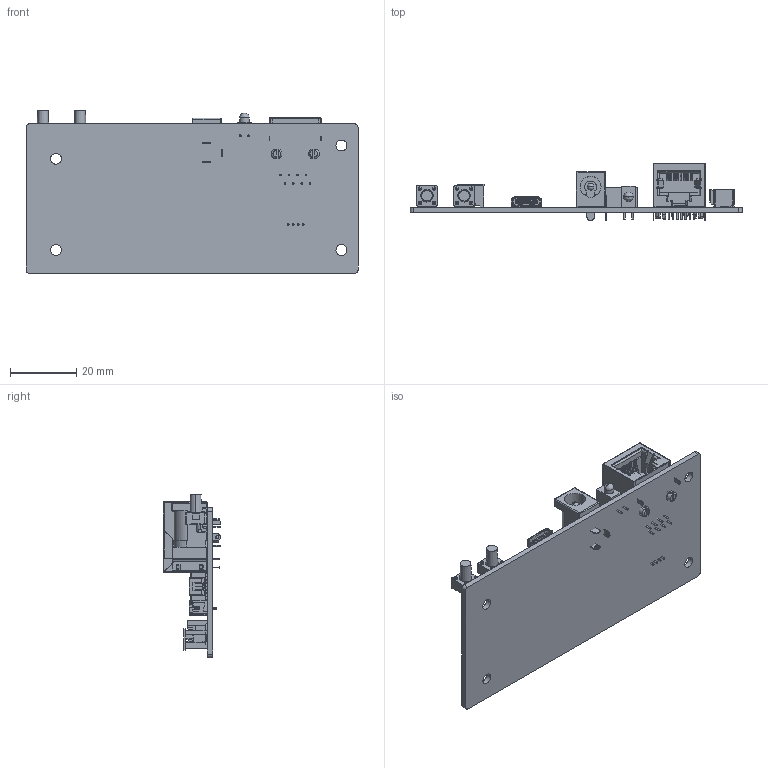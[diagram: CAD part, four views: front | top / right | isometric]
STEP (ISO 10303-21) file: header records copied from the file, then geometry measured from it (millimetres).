
FILE_DESCRIPTION((''),'2;1');
FILE_NAME('MV-23518-PCBA_ASM','2024-12-18T17:06:48',('lizhoupeng'),(''),'CREO PARAMETRIC BY PTC INC, 2020044','CREO PARAMETRIC BY PTC INC, 2020044','');
FILE_SCHEMA(('AUTOMOTIVE_DESIGN { 1 0 10303 214 1 1 1 1 }'));
Products named in the file (11): MV-23518-PCB; 101300118; 101300037; 101303247; 101301808; 100601044; 101400471; 101305980; 101301528; 101301537; MV-23518-PCBA_ASM
Assembly tree (11 placements, depth 2):
  MV-23518-PCBA_ASM
    MV-23518-PCB
    101300118
    101300037
    101303247
    101301808
    100601044
    101400471  x2
    101305980
    101301528
    101301537
Bounding box: 100 x 17.3 x 49 mm (x, y, z)
Volume: 11475.7 mm3; surface area: 20356.2 mm2
Topology: 12 solids, 24 shells, 3971 faces, 11944 edges, 7502 vertices
Faces by surface type: plane 2784, cylinder 1041, torus 55, cone 50, bspline 31, sphere 10
Entity records: 129158 total; most frequent: CARTESIAN_POINT 25297, ORIENTED_EDGE 21304, DIRECTION 21048, EDGE_CURVE 11420, VECTOR 8870, LINE 8870, VERTEX_POINT 7127, AXIS2_PLACEMENT_3D 6089
